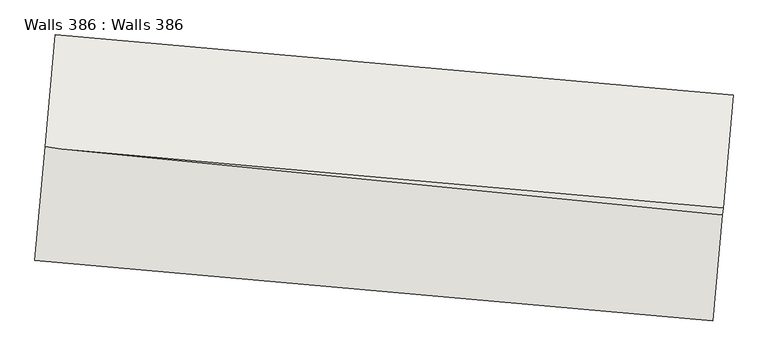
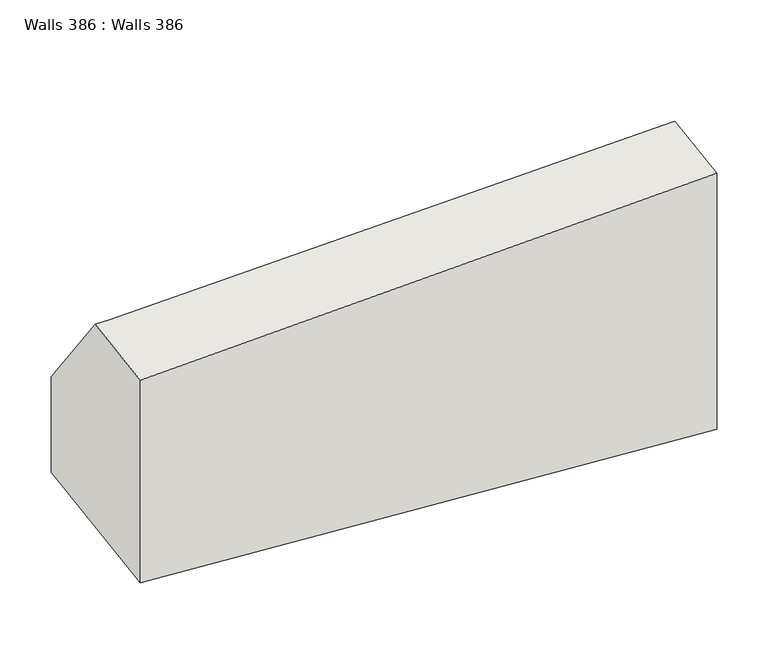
"""IFC4 building model written with IfcOpenShell, lengths in millimetres: wall geometry, Walls 386 : Walls 386."""

import ifcopenshell
import ifcopenshell.guid

model = None  # the IFC model being written
_history = None  # IfcOwnerHistory: only IFC2X3 demands one
_inside = {}  # id of a spatial element -> (the spatial element, [elements in it])
_under = {}  # id of a project, library or spatial element -> (it, [spatial elements below it])
_declared = {}  # id of a project -> (the project, [libraries it declares])
_typed = {}  # id of a type object -> (the type object, [elements of that type])
_made_of = {}  # id of a material, layer set ... -> (it, [elements and type objects made of it])


def new_model(schema):
    """Start an empty IFC model of exactly this schema.

    Asked for "IFC4X3", IfcOpenShell would pick the latest addendum, in which some entities
    have other attributes; the version numbers below select the first issue.
    IFC2X3 requires an IfcOwnerHistory on every rooted entity: one is made here for all.
    """
    global model, _history
    if schema == "IFC4X3":
        model = ifcopenshell.file(schema_version=(4, 3, 0, 0))
    else:
        model = ifcopenshell.file(schema=schema)
    _inside.clear()
    _under.clear()
    _declared.clear()
    _typed.clear()
    _made_of.clear()
    _history = None
    if model.schema == "IFC2X3":
        org = make("IfcOrganization", Name="unknown")
        user = make(
            "IfcPersonAndOrganization",
            ThePerson=make("IfcPerson", FamilyName="unknown"),
            TheOrganization=org,
        )
        app = make(
            "IfcApplication",
            ApplicationDeveloper=org,
            Version="unknown",
            ApplicationFullName="unknown",
            ApplicationIdentifier="unknown",
        )
        _history = make(
            "IfcOwnerHistory",
            OwningUser=user,
            OwningApplication=app,
            ChangeAction="ADDED",
            CreationDate=0,
        )
    return model


def make(cls, **values):
    """One entity of the class cls with the attributes given. An attribute that is None is left unset."""
    return model.create_entity(
        cls, **{name: value for name, value in values.items() if value is not None}
    )


def rooted(cls, **values):
    """An entity with a GlobalId (a new one), such as an element, a storey or a relation."""
    return make(cls, GlobalId=ifcopenshell.guid.new(), OwnerHistory=_history, **values)


def si_unit(unit_type, name, prefix=None):
    """IfcSIUnit, for example si_unit("LENGTHUNIT", "METRE", prefix="MILLI")."""
    return make("IfcSIUnit", UnitType=unit_type, Prefix=prefix, Name=name)


def assignment(units):
    """IfcUnitAssignment: the units of a project."""
    return None if units is None else make("IfcUnitAssignment", Units=units)


def point(xyz):
    """IfcCartesianPoint."""
    return None if xyz is None else make("IfcCartesianPoint", Coordinates=xyz)


def direction(xyz):
    """IfcDirection."""
    return None if xyz is None else make("IfcDirection", DirectionRatios=xyz)


def frame(location, z_axis=None, x_axis=None):
    """IfcAxis2Placement3D, a coordinate frame: its origin and axes. An axis left out is left unset."""
    return make(
        "IfcAxis2Placement3D",
        Location=point(location),
        Axis=direction(z_axis),
        RefDirection=direction(x_axis),
    )


def origin():
    """The frame at (0, 0, 0) with its axes left unset."""
    return frame((0.0, 0.0, 0.0))


def place(relative_to, where):
    """IfcLocalPlacement: puts the frame where relative to a parent placement (None: the world)."""
    return make(
        "IfcLocalPlacement", PlacementRelTo=relative_to, RelativePlacement=where
    )


def context(
    kind, dimensions, precision=None, world=None, true_north=None, identifier=None
):
    """IfcGeometricRepresentationContext, for example the 3D "Model" context."""
    return make(
        "IfcGeometricRepresentationContext",
        ContextIdentifier=identifier,
        ContextType=kind,
        CoordinateSpaceDimension=dimensions,
        Precision=precision,
        WorldCoordinateSystem=world,
        TrueNorth=true_north,
    )


def project(units=None, contexts=None):
    """IfcProject with its units and contexts."""
    return rooted(
        "IfcProject",
        Name="project",
        RepresentationContexts=contexts,
        UnitsInContext=assignment(units),
    )


def spatial(cls, under=None, at=None, **own):
    """A site, building, storey or space (cls), placed at a placement, below another one or the project."""
    s = rooted(cls, ObjectPlacement=at, **own)
    if under is not None:
        _under.setdefault(under.id(), (under, []))[1].append(s)
    return s


def faces_of(points, faces, orient=None, outer=None):
    """IfcFace entities. A face is a list of loops; a loop is a list of indices into points, from 0.

    orient and outer hold one flag for each loop. By default every Orientation is true, the
    first loop of a face is its IfcFaceOuterBound and the others are IfcFaceBound.
    """
    made = []
    for i, loops in enumerate(faces):
        bounds = []
        for j, loop in enumerate(loops):
            is_outer = j == 0 if outer is None else outer[i][j]
            bounds.append(
                make(
                    "IfcFaceOuterBound" if is_outer else "IfcFaceBound",
                    Bound=make("IfcPolyLoop", Polygon=[points[k] for k in loop]),
                    Orientation=True if orient is None else orient[i][j],
                )
            )
        made.append(make("IfcFace", Bounds=bounds))
    return made


def faceted_brep(points, faces, orient=None, outer=None, voids=None):
    """IfcFacetedBrep: a solid bounded by flat faces; with voids (closed shells), ...WithVoids."""
    shared = [point(p) for p in points]
    hull = make("IfcClosedShell", CfsFaces=faces_of(shared, faces, orient, outer))
    if voids is None:
        return make("IfcFacetedBrep", Outer=hull)
    return make(
        "IfcFacetedBrepWithVoids",
        Outer=hull,
        Voids=[
            make(cls, CfsFaces=faces_of(shared, fs, o, b)) for cls, fs, o, b in voids
        ],
    )


def shape(context_of_items, identifier, shape_type, items):
    """IfcShapeRepresentation: the items that make up one representation, for example the "Body"."""
    return make(
        "IfcShapeRepresentation",
        ContextOfItems=context_of_items,
        RepresentationIdentifier=identifier,
        RepresentationType=shape_type,
        Items=items,
    )


def source(mapping_origin, context_of_items, identifier, shape_type, items):
    """IfcRepresentationMap: a shape defined once, which mapped items show again and again."""
    return make(
        "IfcRepresentationMap",
        MappingOrigin=mapping_origin,
        MappedRepresentation=shape(context_of_items, identifier, shape_type, items),
    )


def transform(
    local_origin,
    x_axis=None,
    y_axis=None,
    z_axis=None,
    scale=None,
    scale2=None,
    scale3=None,
    uniform=True,
):
    """IfcCartesianTransformationOperator3D, or its non-uniform kind. x_axis, y_axis, z_axis: its Axis1, 2, 3."""
    if uniform:
        return make(
            "IfcCartesianTransformationOperator3D",
            Axis1=direction(x_axis),
            Axis2=direction(y_axis),
            LocalOrigin=point(local_origin),
            Scale=scale,
            Axis3=direction(z_axis),
        )
    return make(
        "IfcCartesianTransformationOperator3DnonUniform",
        Axis1=direction(x_axis),
        Axis2=direction(y_axis),
        LocalOrigin=point(local_origin),
        Scale=scale,
        Axis3=direction(z_axis),
        Scale2=scale2,
        Scale3=scale3,
    )


def mapped(mapping_source, mapping_target):
    """IfcMappedItem: shows the shape of a source again, moved by a transform."""
    return make(
        "IfcMappedItem", MappingSource=mapping_source, MappingTarget=mapping_target
    )


def made_of(thing, what):
    """Note that an element or type object is made of a material, layer set ...; save() writes the relation."""
    if what is not None:
        _made_of.setdefault(what.id(), (what, []))[1].append(thing)
    return thing


def element(
    cls,
    number,
    at=None,
    inside=None,
    cuts=None,
    type_object=None,
    material=None,
    context=None,
    identifier="Body",
    shape_type=None,
    held_by="IfcProductDefinitionShape",
    body=None,
    shapes=None,
    **own,
):
    """One element of the class cls, such as IfcWall. Its Tag is "e" and its number.

    at: its placement. inside: the storey or other place that contains it. cuts: it is an
    opening in that element (IfcRelVoidsElement). A single representation is given by context,
    identifier, shape_type and body (its items); several are given by shapes. held_by: the class
    of the entity that holds the representations. save() writes the other relations.
    """
    e = rooted(cls, Tag="e%d" % number, ObjectPlacement=at, **own)
    if body is not None:
        shapes = [shape(context, identifier, shape_type, body)]
    if shapes is not None:
        e.Representation = make(held_by, Representations=shapes)
    if inside is not None:
        _inside.setdefault(inside.id(), (inside, []))[1].append(e)
    if cuts is not None:
        rooted(
            "IfcRelVoidsElement", RelatingBuildingElement=cuts, RelatedOpeningElement=e
        )
    if type_object is not None:
        _typed.setdefault(type_object.id(), (type_object, []))[1].append(e)
    return made_of(e, material)


def aggregate(whole, parts):
    """IfcRelAggregates: a whole, such as a stair, and the parts it consists of."""
    return rooted("IfcRelAggregates", RelatingObject=whole, RelatedObjects=parts)


def save(model, path):
    """Write the relations noted so far, then the file.

    IfcRelAggregates (storeys below a building ...), IfcRelContainedInSpatialStructure (elements
    in a storey), IfcRelDefinesByType, IfcRelAssociatesMaterial and IfcRelDeclares: one each for
    every whole, place, type object, material and project.
    """
    for whole, parts in _under.values():
        aggregate(whole, parts)
    for where, things in _inside.values():
        rooted(
            "IfcRelContainedInSpatialStructure",
            RelatedElements=things,
            RelatingStructure=where,
        )
    for kind, things in _typed.values():
        rooted("IfcRelDefinesByType", RelatedObjects=things, RelatingType=kind)
    for what, things in _made_of.values():
        rooted("IfcRelAssociatesMaterial", RelatedObjects=things, RelatingMaterial=what)
    for by, libraries in _declared.values():
        rooted("IfcRelDeclares", RelatingContext=by, RelatedDefinitions=libraries)
    model.write(path)


def walls_386_walls_386_28871feb(model_context):
    return source(origin(), model_context, "Body", "Brep", [
        faceted_brep([(-630807.211872, -422481.078307, 637180.0), (-630824.959337, -422680.2893194, 637430.0), (-630826.0136418, -422692.123637, 637550.0), (-630842.706802, -422879.5003319, 637550.0), (-630842.706802, -422879.5003319, 636960.0), (-630807.211872, -422481.078307, 636960.0), (-632002.4779466, -422374.5935168, 637180.0), (-632002.4779466, -422374.5935168, 636960.0), (-632037.9728767, -422773.0155417, 636960.0), (-632037.9728767, -422773.0155417, 637427.0), (-632020.0124421, -422571.4139971, 637427.0), (-631991.0725807, -422576.4017193, 637430.0)], [[[0, 1, 2, 3, 4, 5]], [[6, 7, 8, 9, 10]], [[1, 0, 6, 10, 11]], [[2, 1, 11]], [[8, 4, 3, 9]], [[5, 4, 8, 7]], [[0, 5, 7, 6]], [[3, 2, 11, 10, 9]]]),
    ])


if __name__ == "__main__":
    model = new_model("IFC4")
    model_context = context("Model", 3, world=origin())
    ifc_project = project(units=[si_unit("LENGTHUNIT", "METRE", prefix="MILLI")], contexts=[model_context])
    site = spatial("IfcSite", under=ifc_project)
    building = spatial("IfcBuilding", under=site)
    placement = place(None, origin())
    walls_386_walls_386_shape = walls_386_walls_386_28871feb(model_context)
    element("IfcWall", 1, ObjectType="Walls 386 : Walls 386", at=placement, inside=building, context=model_context, shape_type="MappedRepresentation", body=[
        mapped(walls_386_walls_386_shape, transform((0.0, 0.0, 0.0), x_axis=(1.0, 0.0, 0.0), y_axis=(0.0, 1.0, 0.0), z_axis=(0.0, 0.0, 1.0))),
    ])
    save(model, "model.ifc")
